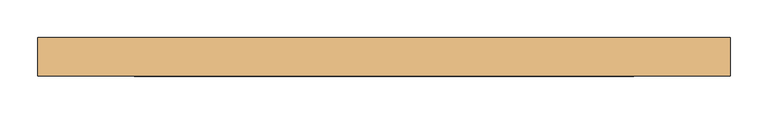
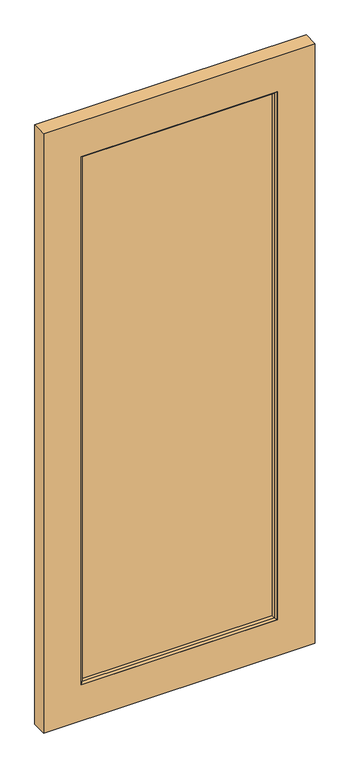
"""IFC4 building model written with IfcOpenShell, lengths in millimetres: door geometry, Planitar - Swap_Full Glass_Panel : Planitar - Swap_Full Glass_Panel."""

from ifc_helpers import new_model, si_unit, frame, origin, place, context, project, spatial, polyline, outline, extrude, faceted_brep, source, transform, mapped, element, save


def door_277e8865(model_context):
    return source(origin(), model_context, "Body", "SolidModel", [
        extrude(outline(polyline([(2133.6, 457.2), (2133.6, -457.2), (0.0, -457.2), (0.0, 457.2), (2133.6, 457.2)]), holes=[polyline([(127.0, 330.2), (127.0, -330.2), (2006.6, -330.2), (2006.6, 330.2), (127.0, 330.2)])]), frame((0.0, -25.4, 0.0), z_axis=(0.0, 1.0, 0.0), x_axis=(0.0, 0.0, 1.0)), (0.0, 0.0, 1.0), 50.8),
        extrude(outline(polyline([(323.85, -6.35), (-323.85, -6.35), (-323.85, 6.35), (323.85, 6.35), (323.85, -6.35)])), frame((0.0, 0.0, 133.35), z_axis=(0.0, 0.0, 1.0), x_axis=(1.0, 0.0, 0.0)), (0.0, 0.0, 1.0), 1866.9),
        faceted_brep([(323.85, 19.05, 133.35), (330.2, 25.4, 127.0), (-330.2, 25.4, 127.0), (-323.85, 19.05, 133.35), (-330.2, 25.4, 2006.6), (-323.85, 19.05, 2000.25), (-330.2, -25.4, 127.0), (-330.2, -25.4, 2006.6), (-323.85, -19.05, 2000.25), (-323.85, -19.05, 133.35), (323.85, -19.05, 133.35), (330.2, -25.4, 127.0), (323.85, 19.05, 2000.25), (330.2, 25.4, 2006.6), (330.2, -25.4, 2006.6), (323.85, -19.05, 2000.25)], [[[0, 1, 2, 3]], [[3, 2, 4, 5]], [[2, 6, 7, 4]], [[3, 5, 8, 9]], [[6, 9, 8, 7]], [[10, 0, 3, 9]], [[11, 10, 9, 6]], [[1, 11, 6, 2]], [[12, 13, 1, 0]], [[13, 14, 11, 1]], [[15, 12, 0, 10]], [[14, 15, 10, 11]], [[5, 4, 13, 12]], [[8, 5, 12, 15]], [[7, 8, 15, 14]], [[4, 7, 14, 13]]]),
    ])


if __name__ == "__main__":
    model = new_model("IFC4")
    model_context = context("Model", 3, world=origin())
    ifc_project = project(units=[si_unit("LENGTHUNIT", "METRE", prefix="MILLI")], contexts=[model_context])
    site = spatial("IfcSite", under=ifc_project)
    building = spatial("IfcBuilding", under=site)
    placement = place(None, origin())
    door_shape = door_277e8865(model_context)
    element("IfcDoor", 1, ObjectType="Planitar - Swap_Full Glass_Panel : Planitar - Swap_Full Glass_Panel", at=placement, inside=building, context=model_context, shape_type="MappedRepresentation", body=[
        mapped(door_shape, transform((0.0, 0.0, 0.0), x_axis=(1.0, 0.0, 0.0), y_axis=(0.0, 1.0, 0.0), z_axis=(0.0, 0.0, 1.0))),
    ])
    save(model, "model.ifc")
